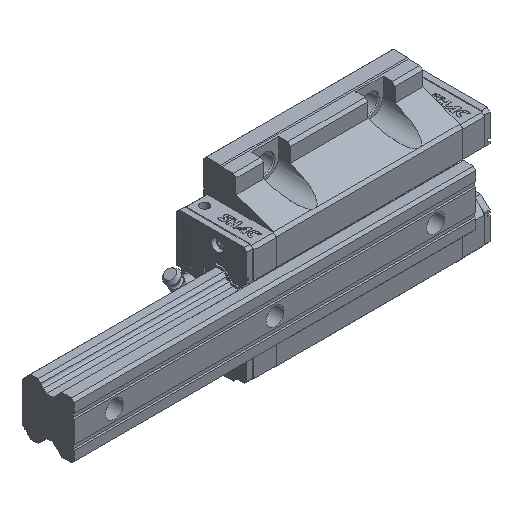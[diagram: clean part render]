
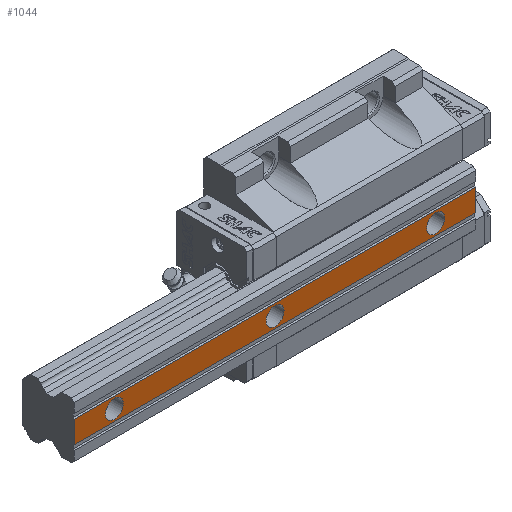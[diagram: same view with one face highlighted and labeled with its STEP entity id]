
A CAD part, isometric view. The second image highlights one B-rep face of the part: STEP entity #1044.
In plain terms, the highlighted planar face has unit normal (0, -1, 0).
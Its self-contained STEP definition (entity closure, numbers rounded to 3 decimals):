
#1044 = ADVANCED_FACE( '', ( #2316, #2317, #2318, #2319 ), #2320, .F. );
#2316 = FACE_BOUND( '', #3957, .T. );
#2317 = FACE_BOUND( '', #3958, .T. );
#2318 = FACE_BOUND( '', #3959, .T. );
#2319 = FACE_OUTER_BOUND( '', #3960, .T. );
#2320 = PLANE( '', #3961 );
#3957 = EDGE_LOOP( '', ( #6637 ) );
#3958 = EDGE_LOOP( '', ( #6638 ) );
#3959 = EDGE_LOOP( '', ( #6639 ) );
#3960 = EDGE_LOOP( '', ( #6640, #6641, #6642, #6643 ) );
#3961 = AXIS2_PLACEMENT_3D( '', #6644, #6645, #6646 );
#6637 = ORIENTED_EDGE( '', *, *, #10476, .F. );
#6638 = ORIENTED_EDGE( '', *, *, #10477, .F. );
#6639 = ORIENTED_EDGE( '', *, *, #10478, .F. );
#6640 = ORIENTED_EDGE( '', *, *, #10479, .F. );
#6641 = ORIENTED_EDGE( '', *, *, #10480, .F. );
#6642 = ORIENTED_EDGE( '', *, *, #10481, .T. );
#6643 = ORIENTED_EDGE( '', *, *, #10094, .T. );
#6644 = CARTESIAN_POINT( '', ( 100., 0., 12.7 ) );
#6645 = DIRECTION( '', ( 0., 1., 0. ) );
#6646 = DIRECTION( '', ( 0., 0., 1. ) );
#10094 = EDGE_CURVE( '', #12277, #12275, #12278, .T. );
#10476 = EDGE_CURVE( '', #12871, #12871, #12872, .T. );
#10477 = EDGE_CURVE( '', #12873, #12873, #12874, .T. );
#10478 = EDGE_CURVE( '', #12875, #12875, #12876, .T. );
#10479 = EDGE_CURVE( '', #12877, #12275, #12878, .T. );
#10480 = EDGE_CURVE( '', #12879, #12877, #12880, .T. );
#10481 = EDGE_CURVE( '', #12879, #12277, #12881, .T. );
#12275 = VERTEX_POINT( '', #15334 );
#12277 = VERTEX_POINT( '', #15337 );
#12278 = LINE( '', #15338, #15339 );
#12871 = VERTEX_POINT( '', #16258 );
#12872 = CIRCLE( '', #16259, 4.5 );
#12873 = VERTEX_POINT( '', #16260 );
#12874 = CIRCLE( '', #16261, 4.5 );
#12875 = VERTEX_POINT( '', #16262 );
#12876 = CIRCLE( '', #16263, 4.5 );
#12877 = VERTEX_POINT( '', #16264 );
#12878 = LINE( '', #16265, #16266 );
#12879 = VERTEX_POINT( '', #16267 );
#12880 = LINE( '', #16268, #16269 );
#12881 = LINE( '', #16270, #16271 );
#15334 = CARTESIAN_POINT( '', ( -100., 0., -5.5 ) );
#15337 = CARTESIAN_POINT( '', ( -100., 0., 5.5 ) );
#15338 = CARTESIAN_POINT( '', ( -100., 0., 12.7 ) );
#15339 = VECTOR( '', #18359, 1000. );
#16258 = CARTESIAN_POINT( '', ( 0., 0., -4.5 ) );
#16259 = AXIS2_PLACEMENT_3D( '', #18742, #18743, #18744 );
#16260 = CARTESIAN_POINT( '', ( 80., 0., -4.5 ) );
#16261 = AXIS2_PLACEMENT_3D( '', #18745, #18746, #18747 );
#16262 = CARTESIAN_POINT( '', ( -80., 0., -4.5 ) );
#16263 = AXIS2_PLACEMENT_3D( '', #18748, #18749, #18750 );
#16264 = CARTESIAN_POINT( '', ( 100., 0., -5.5 ) );
#16265 = CARTESIAN_POINT( '', ( 100., 0., -5.5 ) );
#16266 = VECTOR( '', #18751, 1000. );
#16267 = CARTESIAN_POINT( '', ( 100., 0., 5.5 ) );
#16268 = CARTESIAN_POINT( '', ( 100., 0., 12.7 ) );
#16269 = VECTOR( '', #18752, 1000. );
#16270 = CARTESIAN_POINT( '', ( 100., 0., 5.5 ) );
#16271 = VECTOR( '', #18753, 1000. );
#18359 = DIRECTION( '', ( 0., 0., -1. ) );
#18742 = CARTESIAN_POINT( '', ( 0., 0., 0. ) );
#18743 = DIRECTION( '', ( 0., -1., 0. ) );
#18744 = DIRECTION( '', ( 0., 0., -1. ) );
#18745 = CARTESIAN_POINT( '', ( 80., 0., 0. ) );
#18746 = DIRECTION( '', ( 0., -1., 0. ) );
#18747 = DIRECTION( '', ( 0., 0., -1. ) );
#18748 = CARTESIAN_POINT( '', ( -80., 0., 0. ) );
#18749 = DIRECTION( '', ( 0., -1., 0. ) );
#18750 = DIRECTION( '', ( 0., 0., -1. ) );
#18751 = DIRECTION( '', ( -1., 0., 0. ) );
#18752 = DIRECTION( '', ( 0., 0., -1. ) );
#18753 = DIRECTION( '', ( -1., 0., 0. ) );
